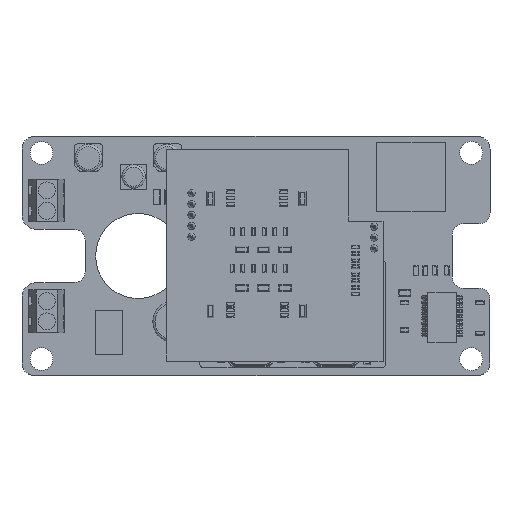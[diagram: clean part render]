
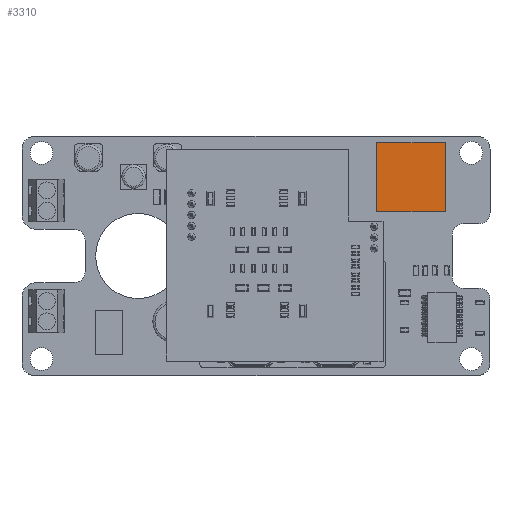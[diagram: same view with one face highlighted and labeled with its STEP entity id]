
A CAD part, top view. The second image highlights one B-rep face of the part: STEP entity #3310.
In plain terms, the highlighted planar face has unit normal (0, 0, 1).
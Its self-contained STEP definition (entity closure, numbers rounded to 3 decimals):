
#3310=ADVANCED_FACE('',(#6976),#5589,.T.);
#5589=PLANE('',#39997);
#6976=FACE_OUTER_BOUND('',#9178,.T.);
#9178=EDGE_LOOP('',(#12703,#12704,#12705,#12706));
#12703=ORIENTED_EDGE('',*,*,#26818,.T.);
#12704=ORIENTED_EDGE('',*,*,#26819,.T.);
#12705=ORIENTED_EDGE('',*,*,#26820,.T.);
#12706=ORIENTED_EDGE('',*,*,#26821,.T.);
#23013=VERTEX_POINT('',#56333);
#23014=VERTEX_POINT('',#56334);
#23015=VERTEX_POINT('',#56336);
#23016=VERTEX_POINT('',#56338);
#26818=EDGE_CURVE('',#23013,#23014,#32313,.T.);
#26819=EDGE_CURVE('',#23014,#23015,#32314,.T.);
#26820=EDGE_CURVE('',#23015,#23016,#32315,.T.);
#26821=EDGE_CURVE('',#23016,#23013,#32316,.T.);
#32313=LINE('',#56332,#36293);
#32314=LINE('',#56335,#36294);
#32315=LINE('',#56337,#36295);
#32316=LINE('',#56339,#36296);
#36293=VECTOR('',#44566,1.);
#36294=VECTOR('',#44567,1.);
#36295=VECTOR('',#44568,1.);
#36296=VECTOR('',#44569,1.);
#39997=AXIS2_PLACEMENT_3D('',#56340,#44570,#44571);
#44566=DIRECTION('',(-1.,0.,0.));
#44567=DIRECTION('',(0.,-1.,0.));
#44568=DIRECTION('',(1.,0.,0.));
#44569=DIRECTION('',(0.,1.,0.));
#44570=DIRECTION('',(0.,0.,1.));
#44571=DIRECTION('',(1.,0.,0.));
#56332=CARTESIAN_POINT('',(99.533,54.498,12.7));
#56333=CARTESIAN_POINT('',(99.533,54.498,12.7));
#56334=CARTESIAN_POINT('',(83.333,54.498,12.7));
#56335=CARTESIAN_POINT('',(83.333,54.498,12.7));
#56336=CARTESIAN_POINT('',(83.333,38.298,12.7));
#56337=CARTESIAN_POINT('',(83.333,38.298,12.7));
#56338=CARTESIAN_POINT('',(99.533,38.298,12.7));
#56339=CARTESIAN_POINT('',(99.533,38.298,12.7));
#56340=CARTESIAN_POINT('',(55.002,27.862,12.7));
